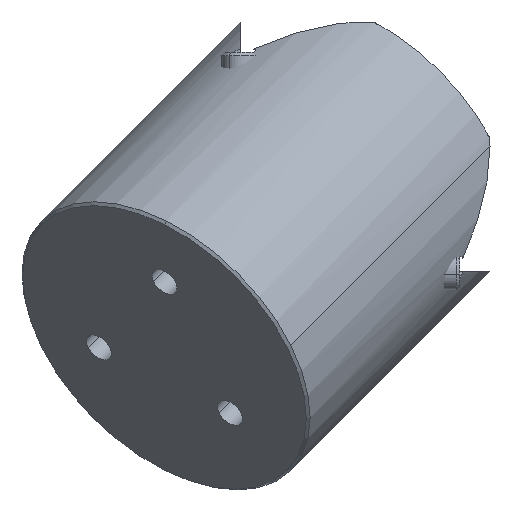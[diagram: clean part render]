
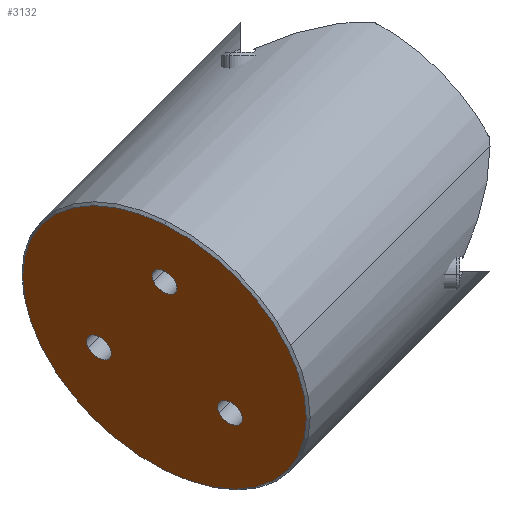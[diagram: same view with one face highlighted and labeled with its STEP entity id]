
A CAD part, left-side view. The second image highlights one B-rep face of the part: STEP entity #3132.
In plain terms, the highlighted planar face has unit normal (-0.577, 0.577, -0.577).
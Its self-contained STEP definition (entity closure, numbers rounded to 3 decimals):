
#45 = AXIS2_PLACEMENT_3D ( 'NONE', #2972, #595, #2711 ) ;
#166 = DIRECTION ( 'NONE',  ( -0.577, 0.577, -0.577 ) ) ;
#179 = EDGE_CURVE ( 'NONE', #3282, #2843, #2637, .T. ) ;
#203 = ORIENTED_EDGE ( 'NONE', *, *, #1971, .F. ) ;
#382 = ORIENTED_EDGE ( 'NONE', *, *, #3212, .F. ) ;
#430 = CARTESIAN_POINT ( 'NONE',  ( -25.618, 18.547, -11.476 ) ) ;
#432 = AXIS2_PLACEMENT_3D ( 'NONE', #2847, #2580, #433 ) ;
#433 = DIRECTION ( 'NONE',  ( 0.707, 0.707, 0. ) ) ;
#467 = CIRCLE ( 'NONE', #3134, 18.75 ) ;
#489 = DIRECTION ( 'NONE',  ( 0.707, 0.707, 0. ) ) ;
#497 = EDGE_CURVE ( 'NONE', #770, #2008, #2234, .T. ) ;
#508 = CARTESIAN_POINT ( 'NONE',  ( -24.451, 19.714, -11.476 ) ) ;
#583 = CARTESIAN_POINT ( 'NONE',  ( -19.714, 10.309, -25.618 ) ) ;
#584 = EDGE_LOOP ( 'NONE', ( #382, #1055 ) ) ;
#595 = DIRECTION ( 'NONE',  ( -0.577, 0.577, -0.577 ) ) ;
#599 = CARTESIAN_POINT ( 'NONE',  ( -5.289, 18.547, -31.805 ) ) ;
#626 = EDGE_CURVE ( 'NONE', #2920, #2994, #1473, .T. ) ;
#715 = FACE_OUTER_BOUND ( 'NONE', #2716, .T. ) ;
#761 = AXIS2_PLACEMENT_3D ( 'NONE', #2790, #166, #1978 ) ;
#762 = AXIS2_PLACEMENT_3D ( 'NONE', #2707, #1110, #2937 ) ;
#770 = VERTEX_POINT ( 'NONE', #583 ) ;
#818 = AXIS2_PLACEMENT_3D ( 'NONE', #1031, #3396, #489 ) ;
#822 = CARTESIAN_POINT ( 'NONE',  ( -17.38, 12.643, -25.618 ) ) ;
#907 = CARTESIAN_POINT ( 'NONE',  ( -11.476, 25.618, -18.547 ) ) ;
#912 = DIRECTION ( 'NONE',  ( -0.707, -0.707, 0. ) ) ;
#913 = EDGE_CURVE ( 'NONE', #2008, #770, #2704, .T. ) ;
#953 = DIRECTION ( 'NONE',  ( -0.707, -0.707, 0. ) ) ;
#1031 = CARTESIAN_POINT ( 'NONE',  ( -18.547, 18.547, -18.547 ) ) ;
#1035 = ORIENTED_EDGE ( 'NONE', *, *, #913, .F. ) ;
#1039 = AXIS2_PLACEMENT_3D ( 'NONE', #907, #3012, #3031 ) ;
#1055 = ORIENTED_EDGE ( 'NONE', *, *, #626, .F. ) ;
#1110 = DIRECTION ( 'NONE',  ( -0.577, 0.577, -0.577 ) ) ;
#1297 = AXIS2_PLACEMENT_3D ( 'NONE', #430, #1485, #912 ) ;
#1368 = AXIS2_PLACEMENT_3D ( 'NONE', #2798, #3328, #953 ) ;
#1462 = CARTESIAN_POINT ( 'NONE',  ( -31.805, 18.547, -5.289 ) ) ;
#1473 = CIRCLE ( 'NONE', #1039, 1.65 ) ;
#1484 = CIRCLE ( 'NONE', #1368, 1.65 ) ;
#1485 = DIRECTION ( 'NONE',  ( -0.577, 0.577, -0.577 ) ) ;
#1521 = CARTESIAN_POINT ( 'NONE',  ( -26.785, 17.38, -11.476 ) ) ;
#1552 = EDGE_LOOP ( 'NONE', ( #203, #2146 ) ) ;
#1708 = ORIENTED_EDGE ( 'NONE', *, *, #1775, .T. ) ;
#1716 = PLANE ( 'NONE',  #432 ) ;
#1775 = EDGE_CURVE ( 'NONE', #2713, #2520, #2238, .T. ) ;
#1791 = FACE_BOUND ( 'NONE', #584, .T. ) ;
#1971 = EDGE_CURVE ( 'NONE', #2843, #3282, #2237, .T. ) ;
#1978 = DIRECTION ( 'NONE',  ( -0.707, -0.707, 0. ) ) ;
#1984 = FACE_BOUND ( 'NONE', #2330, .T. ) ;
#2008 = VERTEX_POINT ( 'NONE', #822 ) ;
#2047 = DIRECTION ( 'NONE',  ( -0.577, 0.577, -0.577 ) ) ;
#2146 = ORIENTED_EDGE ( 'NONE', *, *, #179, .F. ) ;
#2234 = CIRCLE ( 'NONE', #761, 1.65 ) ;
#2237 = CIRCLE ( 'NONE', #762, 1.65 ) ;
#2238 = CIRCLE ( 'NONE', #818, 18.75 ) ;
#2313 = FACE_BOUND ( 'NONE', #1552, .T. ) ;
#2330 = EDGE_LOOP ( 'NONE', ( #2846, #1035 ) ) ;
#2413 = CARTESIAN_POINT ( 'NONE',  ( -12.643, 24.451, -18.547 ) ) ;
#2467 = ORIENTED_EDGE ( 'NONE', *, *, #2528, .T. ) ;
#2519 = DIRECTION ( 'NONE',  ( 0.707, 0.707, 0. ) ) ;
#2520 = VERTEX_POINT ( 'NONE', #1462 ) ;
#2528 = EDGE_CURVE ( 'NONE', #2520, #2713, #467, .T. ) ;
#2580 = DIRECTION ( 'NONE',  ( 0.577, -0.577, 0.577 ) ) ;
#2637 = CIRCLE ( 'NONE', #1297, 1.65 ) ;
#2704 = CIRCLE ( 'NONE', #45, 1.65 ) ;
#2707 = CARTESIAN_POINT ( 'NONE',  ( -25.618, 18.547, -11.476 ) ) ;
#2711 = DIRECTION ( 'NONE',  ( -0.707, -0.707, 0. ) ) ;
#2713 = VERTEX_POINT ( 'NONE', #599 ) ;
#2716 = EDGE_LOOP ( 'NONE', ( #1708, #2467 ) ) ;
#2790 = CARTESIAN_POINT ( 'NONE',  ( -18.547, 11.476, -25.618 ) ) ;
#2798 = CARTESIAN_POINT ( 'NONE',  ( -11.476, 25.618, -18.547 ) ) ;
#2843 = VERTEX_POINT ( 'NONE', #1521 ) ;
#2846 = ORIENTED_EDGE ( 'NONE', *, *, #497, .F. ) ;
#2847 = CARTESIAN_POINT ( 'NONE',  ( -18.547, 18.547, -18.547 ) ) ;
#2920 = VERTEX_POINT ( 'NONE', #3400 ) ;
#2937 = DIRECTION ( 'NONE',  ( -0.707, -0.707, 0. ) ) ;
#2972 = CARTESIAN_POINT ( 'NONE',  ( -18.547, 11.476, -25.618 ) ) ;
#2994 = VERTEX_POINT ( 'NONE', #2413 ) ;
#3012 = DIRECTION ( 'NONE',  ( -0.577, 0.577, -0.577 ) ) ;
#3031 = DIRECTION ( 'NONE',  ( -0.707, -0.707, 0. ) ) ;
#3085 = CARTESIAN_POINT ( 'NONE',  ( -18.547, 18.547, -18.547 ) ) ;
#3132 = ADVANCED_FACE ( 'NONE', ( #1791, #2313, #1984, #715 ), #1716, .F. ) ;
#3134 = AXIS2_PLACEMENT_3D ( 'NONE', #3085, #2047, #2519 ) ;
#3212 = EDGE_CURVE ( 'NONE', #2994, #2920, #1484, .T. ) ;
#3282 = VERTEX_POINT ( 'NONE', #508 ) ;
#3328 = DIRECTION ( 'NONE',  ( -0.577, 0.577, -0.577 ) ) ;
#3396 = DIRECTION ( 'NONE',  ( -0.577, 0.577, -0.577 ) ) ;
#3400 = CARTESIAN_POINT ( 'NONE',  ( -10.309, 26.785, -18.547 ) ) ;
